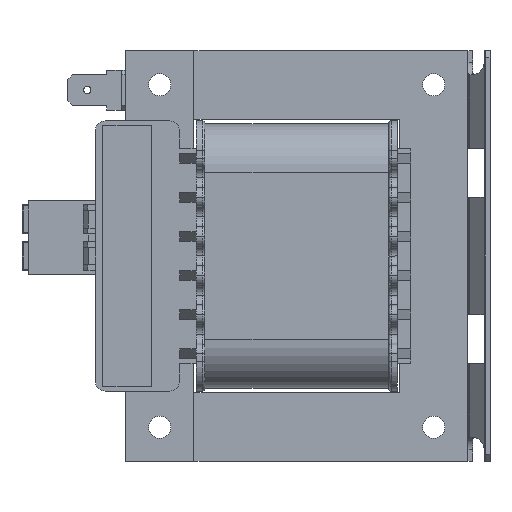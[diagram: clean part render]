
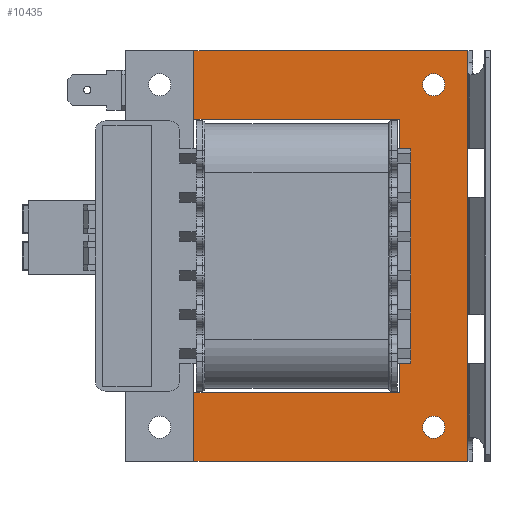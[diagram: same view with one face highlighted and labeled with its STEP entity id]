
A CAD part, left-side view. The second image highlights one B-rep face of the part: STEP entity #10435.
In plain terms, the highlighted planar face has unit normal (-1, 0, 0).
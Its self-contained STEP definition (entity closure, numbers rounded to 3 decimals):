
#522 = DIRECTION ( 'NONE',  ( 0., 0., 1. ) ) ;
#739 = FACE_BOUND ( 'NONE', #55170, .T. ) ;
#1262 = CARTESIAN_POINT ( 'NONE',  ( -14.75, 56., -28. ) ) ;
#3673 = DIRECTION ( 'NONE',  ( 0., 0., -1. ) ) ;
#3843 = CARTESIAN_POINT ( 'NONE',  ( -14.75, 14., 28. ) ) ;
#4009 = LINE ( 'NONE', #66887, #20309 ) ;
#4617 = DIRECTION ( 'NONE',  ( 0., 0., -1. ) ) ;
#5799 = VECTOR ( 'NONE', #25903, 1000. ) ;
#6860 = CARTESIAN_POINT ( 'NONE',  ( -14.75, 56., 14. ) ) ;
#8285 = DIRECTION ( 'NONE',  ( 0., -1., 0. ) ) ;
#9617 = VERTEX_POINT ( 'NONE', #15087 ) ;
#10435 = ADVANCED_FACE ( 'NONE', ( #739, #70179, #51743 ), #33106, .F. ) ;
#11216 = ORIENTED_EDGE ( 'NONE', *, *, #88798, .F. ) ;
#12144 = CARTESIAN_POINT ( 'NONE',  ( -14.75, 56., 14. ) ) ;
#12623 = LINE ( 'NONE', #22136, #47370 ) ;
#12968 = CARTESIAN_POINT ( 'NONE',  ( -14.75, 56., 28. ) ) ;
#14159 = CARTESIAN_POINT ( 'NONE',  ( -14.75, 14., -14. ) ) ;
#14906 = LINE ( 'NONE', #15541, #39894 ) ;
#15087 = CARTESIAN_POINT ( 'NONE',  ( -14.75, 0., -42. ) ) ;
#15541 = CARTESIAN_POINT ( 'NONE',  ( -14.75, 14., 14. ) ) ;
#16121 = EDGE_CURVE ( 'NONE', #73692, #9617, #62664, .T. ) ;
#18883 = ORIENTED_EDGE ( 'NONE', *, *, #82809, .F. ) ;
#18924 = EDGE_LOOP ( 'NONE', ( #85563, #31705, #11216, #27347, #83035, #21520, #75806, #18883, #48362, #45587, #72899, #51486 ) ) ;
#19276 = AXIS2_PLACEMENT_3D ( 'NONE', #87829, #46223, #4617 ) ;
#20309 = VECTOR ( 'NONE', #32402, 1000. ) ;
#20812 = CARTESIAN_POINT ( 'NONE',  ( -14.75, 0., 42. ) ) ;
#21520 = ORIENTED_EDGE ( 'NONE', *, *, #73723, .F. ) ;
#21764 = EDGE_CURVE ( 'NONE', #59638, #89738, #45956, .T. ) ;
#22136 = CARTESIAN_POINT ( 'NONE',  ( -14.75, 56., 42. ) ) ;
#22671 = VECTOR ( 'NONE', #39506, 1000. ) ;
#23292 = LINE ( 'NONE', #1262, #57920 ) ;
#24338 = LINE ( 'NONE', #39583, #5799 ) ;
#24788 = CARTESIAN_POINT ( 'NONE',  ( -14.75, 56., -28. ) ) ;
#25062 = VERTEX_POINT ( 'NONE', #40001 ) ;
#25426 = VERTEX_POINT ( 'NONE', #55254 ) ;
#25545 = LINE ( 'NONE', #14159, #60169 ) ;
#25903 = DIRECTION ( 'NONE',  ( 0., 0., 1. ) ) ;
#27347 = ORIENTED_EDGE ( 'NONE', *, *, #79188, .F. ) ;
#27953 = EDGE_CURVE ( 'NONE', #46576, #25062, #24338, .T. ) ;
#29078 = EDGE_CURVE ( 'NONE', #9617, #70788, #81617, .T. ) ;
#29149 = DIRECTION ( 'NONE',  ( 0., -1., 0. ) ) ;
#30832 = CARTESIAN_POINT ( 'NONE',  ( -14.75, 14., 14. ) ) ;
#31705 = ORIENTED_EDGE ( 'NONE', *, *, #84669, .F. ) ;
#32402 = DIRECTION ( 'NONE',  ( 0., 0., 1. ) ) ;
#33106 = PLANE ( 'NONE',  #81135 ) ;
#34391 = CARTESIAN_POINT ( 'NONE',  ( -14.75, 7., -37.25 ) ) ;
#34742 = LINE ( 'NONE', #3843, #53143 ) ;
#35619 = VECTOR ( 'NONE', #88431, 1000. ) ;
#39506 = DIRECTION ( 'NONE',  ( 0., -1., 0. ) ) ;
#39583 = CARTESIAN_POINT ( 'NONE',  ( -14.75, 56., 28. ) ) ;
#39894 = VECTOR ( 'NONE', #63950, 1000. ) ;
#40001 = CARTESIAN_POINT ( 'NONE',  ( -14.75, 56., 42. ) ) ;
#41135 = LINE ( 'NONE', #12144, #22671 ) ;
#41228 = DIRECTION ( 'NONE',  ( 1., 0., 0. ) ) ;
#42100 = EDGE_LOOP ( 'NONE', ( #89435 ) ) ;
#42158 = CARTESIAN_POINT ( 'NONE',  ( -14.75, 56., -14. ) ) ;
#45206 = VERTEX_POINT ( 'NONE', #24788 ) ;
#45257 = DIRECTION ( 'NONE',  ( 1., 0., 0. ) ) ;
#45587 = ORIENTED_EDGE ( 'NONE', *, *, #29078, .F. ) ;
#45956 = LINE ( 'NONE', #42158, #64324 ) ;
#46057 = VERTEX_POINT ( 'NONE', #34391 ) ;
#46223 = DIRECTION ( 'NONE',  ( 1., 0., 0. ) ) ;
#46532 = CARTESIAN_POINT ( 'NONE',  ( -14.75, 0., 42. ) ) ;
#46576 = VERTEX_POINT ( 'NONE', #12968 ) ;
#47370 = VECTOR ( 'NONE', #29149, 1000. ) ;
#48362 = ORIENTED_EDGE ( 'NONE', *, *, #72938, .F. ) ;
#49044 = DIRECTION ( 'NONE',  ( 0., 0., 1. ) ) ;
#49408 = CARTESIAN_POINT ( 'NONE',  ( -14.75, 0., -42. ) ) ;
#51486 = ORIENTED_EDGE ( 'NONE', *, *, #73272, .F. ) ;
#51743 = FACE_OUTER_BOUND ( 'NONE', #18924, .T. ) ;
#52352 = DIRECTION ( 'NONE',  ( 0., 1., 0. ) ) ;
#53143 = VECTOR ( 'NONE', #52352, 1000. ) ;
#55170 = EDGE_LOOP ( 'NONE', ( #68753 ) ) ;
#55254 = CARTESIAN_POINT ( 'NONE',  ( -14.75, 7., 32.75 ) ) ;
#56310 = DIRECTION ( 'NONE',  ( 0., 1., 0. ) ) ;
#57920 = VECTOR ( 'NONE', #8285, 1000. ) ;
#58065 = VECTOR ( 'NONE', #49044, 1000. ) ;
#59638 = VERTEX_POINT ( 'NONE', #63533 ) ;
#60169 = VECTOR ( 'NONE', #76943, 1000. ) ;
#60356 = EDGE_CURVE ( 'NONE', #46057, #46057, #84125, .T. ) ;
#62664 = LINE ( 'NONE', #46532, #35619 ) ;
#63019 = VECTOR ( 'NONE', #56310, 1000. ) ;
#63108 = CARTESIAN_POINT ( 'NONE',  ( -14.75, 14., -14. ) ) ;
#63305 = VERTEX_POINT ( 'NONE', #70812 ) ;
#63533 = CARTESIAN_POINT ( 'NONE',  ( -14.75, 56., -14. ) ) ;
#63950 = DIRECTION ( 'NONE',  ( 0., 0., 1. ) ) ;
#64324 = VECTOR ( 'NONE', #522, 1000. ) ;
#64492 = CIRCLE ( 'NONE', #83809, 2.25 ) ;
#66877 = EDGE_CURVE ( 'NONE', #87003, #80390, #78841, .T. ) ;
#66887 = CARTESIAN_POINT ( 'NONE',  ( -14.75, 56., -42. ) ) ;
#67048 = VERTEX_POINT ( 'NONE', #30832 ) ;
#67698 = EDGE_CURVE ( 'NONE', #25426, #25426, #64492, .T. ) ;
#68753 = ORIENTED_EDGE ( 'NONE', *, *, #60356, .T. ) ;
#70179 = FACE_BOUND ( 'NONE', #42100, .T. ) ;
#70788 = VERTEX_POINT ( 'NONE', #82855 ) ;
#70812 = CARTESIAN_POINT ( 'NONE',  ( -14.75, 14., 28. ) ) ;
#72899 = ORIENTED_EDGE ( 'NONE', *, *, #16121, .F. ) ;
#72938 = EDGE_CURVE ( 'NONE', #70788, #45206, #4009, .T. ) ;
#73272 = EDGE_CURVE ( 'NONE', #25062, #73692, #12623, .T. ) ;
#73692 = VERTEX_POINT ( 'NONE', #20812 ) ;
#73723 = EDGE_CURVE ( 'NONE', #80390, #59638, #25545, .T. ) ;
#75806 = ORIENTED_EDGE ( 'NONE', *, *, #66877, .F. ) ;
#76943 = DIRECTION ( 'NONE',  ( 0., 1., 0. ) ) ;
#78841 = LINE ( 'NONE', #83655, #58065 ) ;
#79188 = EDGE_CURVE ( 'NONE', #89738, #67048, #41135, .T. ) ;
#80041 = CARTESIAN_POINT ( 'NONE',  ( -14.75, 56., -28. ) ) ;
#80390 = VERTEX_POINT ( 'NONE', #63108 ) ;
#81135 = AXIS2_PLACEMENT_3D ( 'NONE', #80041, #41228, #89889 ) ;
#81617 = LINE ( 'NONE', #49408, #63019 ) ;
#82809 = EDGE_CURVE ( 'NONE', #45206, #87003, #23292, .T. ) ;
#82855 = CARTESIAN_POINT ( 'NONE',  ( -14.75, 56., -42. ) ) ;
#83035 = ORIENTED_EDGE ( 'NONE', *, *, #21764, .F. ) ;
#83655 = CARTESIAN_POINT ( 'NONE',  ( -14.75, 14., -28. ) ) ;
#83809 = AXIS2_PLACEMENT_3D ( 'NONE', #86861, #45257, #3673 ) ;
#84125 = CIRCLE ( 'NONE', #19276, 2.25 ) ;
#84669 = EDGE_CURVE ( 'NONE', #63305, #46576, #34742, .T. ) ;
#85563 = ORIENTED_EDGE ( 'NONE', *, *, #27953, .F. ) ;
#86861 = CARTESIAN_POINT ( 'NONE',  ( -14.75, 7., 35. ) ) ;
#87003 = VERTEX_POINT ( 'NONE', #89902 ) ;
#87829 = CARTESIAN_POINT ( 'NONE',  ( -14.75, 7., -35. ) ) ;
#88431 = DIRECTION ( 'NONE',  ( 0., 0., -1. ) ) ;
#88798 = EDGE_CURVE ( 'NONE', #67048, #63305, #14906, .T. ) ;
#89435 = ORIENTED_EDGE ( 'NONE', *, *, #67698, .T. ) ;
#89738 = VERTEX_POINT ( 'NONE', #6860 ) ;
#89889 = DIRECTION ( 'NONE',  ( 0., 0., -1. ) ) ;
#89902 = CARTESIAN_POINT ( 'NONE',  ( -14.75, 14., -28. ) ) ;
